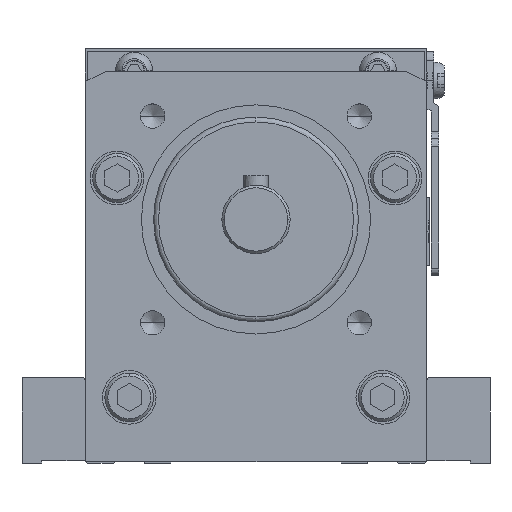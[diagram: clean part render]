
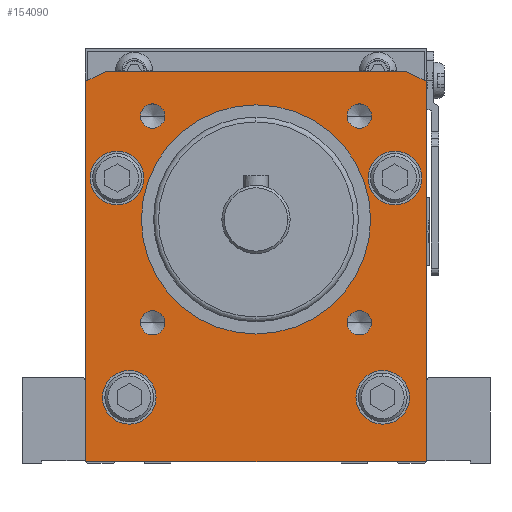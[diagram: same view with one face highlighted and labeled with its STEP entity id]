
A CAD part, front view. The second image highlights one B-rep face of the part: STEP entity #154090.
In plain terms, the highlighted planar face has unit normal (0, -1, 0) as drawn and (0, 0, 1) by its records, which use the part's own axes.
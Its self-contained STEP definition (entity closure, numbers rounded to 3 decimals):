
#150890=CARTESIAN_POINT('',(1538.79,48.217,417.));
#150900=VERTEX_POINT('',#150890);
#150930=CARTESIAN_POINT('',(1538.79,0.,417.));
#150940=DIRECTION('',(0.,-1.,0.));
#150950=VECTOR('',#150940,1.);
#150960=LINE('',#150930,#150950);
#150970=CARTESIAN_POINT('',(1538.79,126.217,417.));
#150980=VERTEX_POINT('',#150970);
#150990=EDGE_CURVE('',#150980,#150900,#150960,.T.);
#152280=CARTESIAN_POINT('',(1515.894,81.892,417.));
#152290=DIRECTION('',(0.,0.,1.));
#152300=DIRECTION('',(1.,0.,0.));
#152310=AXIS2_PLACEMENT_3D('',#152280,#152290,#152300);
#152320=PLANE('',#152310);
#152330=CARTESIAN_POINT('',(1482.69,119.117,417.));
#152340=DIRECTION('',(0.,0.,1.));
#152350=DIRECTION('',(-1.,0.,0.));
#152360=AXIS2_PLACEMENT_3D('',#152330,#152340,#152350);
#152370=CIRCLE('',#152360,2.5);
#152380=CARTESIAN_POINT('',(1480.19,119.117,417.));
#152390=VERTEX_POINT('',#152380);
#152400=CARTESIAN_POINT('',(1485.19,119.117,417.));
#152410=VERTEX_POINT('',#152400);
#152420=EDGE_CURVE('',#152390,#152410,#152370,.T.);
#152430=ORIENTED_EDGE('',*,*,#152420,.F.);
#152440=EDGE_CURVE('',#152410,#152390,#152370,.T.);
#152450=ORIENTED_EDGE('',*,*,#152440,.F.);
#152460=EDGE_LOOP('',(#152450,#152430));
#152470=FACE_BOUND('',#152460,.T.);
#152480=CARTESIAN_POINT('',(1482.69,76.717,417.));
#152490=DIRECTION('',(0.,0.,1.));
#152500=DIRECTION('',(-1.,0.,0.));
#152510=AXIS2_PLACEMENT_3D('',#152480,#152490,#152500);
#152520=CIRCLE('',#152510,2.5);
#152530=CARTESIAN_POINT('',(1480.19,76.717,417.));
#152540=VERTEX_POINT('',#152530);
#152550=CARTESIAN_POINT('',(1485.19,76.717,417.));
#152560=VERTEX_POINT('',#152550);
#152570=EDGE_CURVE('',#152540,#152560,#152520,.T.);
#152580=ORIENTED_EDGE('',*,*,#152570,.F.);
#152590=EDGE_CURVE('',#152560,#152540,#152520,.T.);
#152600=ORIENTED_EDGE('',*,*,#152590,.F.);
#152610=EDGE_LOOP('',(#152600,#152580));
#152620=FACE_BOUND('',#152610,.T.);
#152630=CARTESIAN_POINT('',(1525.09,76.717,417.));
#152640=DIRECTION('',(0.,0.,1.));
#152650=DIRECTION('',(-1.,0.,0.));
#152660=AXIS2_PLACEMENT_3D('',#152630,#152640,#152650);
#152670=CIRCLE('',#152660,2.5);
#152680=CARTESIAN_POINT('',(1522.59,76.717,417.));
#152690=VERTEX_POINT('',#152680);
#152700=CARTESIAN_POINT('',(1527.59,76.717,417.));
#152710=VERTEX_POINT('',#152700);
#152720=EDGE_CURVE('',#152690,#152710,#152670,.T.);
#152730=ORIENTED_EDGE('',*,*,#152720,.F.);
#152740=EDGE_CURVE('',#152710,#152690,#152670,.T.);
#152750=ORIENTED_EDGE('',*,*,#152740,.F.);
#152760=EDGE_LOOP('',(#152750,#152730));
#152770=FACE_BOUND('',#152760,.T.);
#152780=CARTESIAN_POINT('',(1532.39,106.417,417.));
#152790=DIRECTION('',(0.,0.,1.));
#152800=DIRECTION('',(1.,0.,0.));
#152810=AXIS2_PLACEMENT_3D('',#152780,#152790,#152800);
#152820=CIRCLE('',#152810,5.5);
#152830=CARTESIAN_POINT('',(1537.89,106.417,417.));
#152840=VERTEX_POINT('',#152830);
#152850=CARTESIAN_POINT('',(1526.89,106.417,417.));
#152860=VERTEX_POINT('',#152850);
#152870=EDGE_CURVE('',#152840,#152860,#152820,.T.);
#152880=ORIENTED_EDGE('',*,*,#152870,.F.);
#152890=EDGE_CURVE('',#152860,#152840,#152820,.T.);
#152900=ORIENTED_EDGE('',*,*,#152890,.F.);
#152910=EDGE_LOOP('',(#152900,#152880));
#152920=FACE_BOUND('',#152910,.T.);
#152930=CARTESIAN_POINT('',(1477.89,61.417,417.));
#152940=DIRECTION('',(0.,0.,1.));
#152950=DIRECTION('',(1.,0.,0.));
#152960=AXIS2_PLACEMENT_3D('',#152930,#152940,#152950);
#152970=CIRCLE('',#152960,5.5);
#152980=CARTESIAN_POINT('',(1483.39,61.417,417.));
#152990=VERTEX_POINT('',#152980);
#153000=CARTESIAN_POINT('',(1472.39,61.417,417.));
#153010=VERTEX_POINT('',#153000);
#153020=EDGE_CURVE('',#152990,#153010,#152970,.T.);
#153030=ORIENTED_EDGE('',*,*,#153020,.F.);
#153040=EDGE_CURVE('',#153010,#152990,#152970,.T.);
#153050=ORIENTED_EDGE('',*,*,#153040,.F.);
#153060=EDGE_LOOP('',(#153050,#153030));
#153070=FACE_BOUND('',#153060,.T.);
#153080=CARTESIAN_POINT('',(1475.39,106.417,417.));
#153090=DIRECTION('',(0.,0.,1.));
#153100=DIRECTION('',(1.,0.,0.));
#153110=AXIS2_PLACEMENT_3D('',#153080,#153090,#153100);
#153120=CIRCLE('',#153110,5.5);
#153130=CARTESIAN_POINT('',(1480.89,106.417,417.));
#153140=VERTEX_POINT('',#153130);
#153150=CARTESIAN_POINT('',(1469.89,106.417,417.));
#153160=VERTEX_POINT('',#153150);
#153170=EDGE_CURVE('',#153140,#153160,#153120,.T.);
#153180=ORIENTED_EDGE('',*,*,#153170,.F.);
#153190=EDGE_CURVE('',#153160,#153140,#153120,.T.);
#153200=ORIENTED_EDGE('',*,*,#153190,.F.);
#153210=EDGE_LOOP('',(#153200,#153180));
#153220=FACE_BOUND('',#153210,.T.);
#153230=CARTESIAN_POINT('',(1529.89,61.417,417.));
#153240=DIRECTION('',(0.,0.,1.));
#153250=DIRECTION('',(1.,0.,0.));
#153260=AXIS2_PLACEMENT_3D('',#153230,#153240,#153250);
#153270=CIRCLE('',#153260,5.5);
#153280=CARTESIAN_POINT('',(1535.39,61.417,417.));
#153290=VERTEX_POINT('',#153280);
#153300=CARTESIAN_POINT('',(1524.39,61.417,417.));
#153310=VERTEX_POINT('',#153300);
#153320=EDGE_CURVE('',#153290,#153310,#153270,.T.);
#153330=ORIENTED_EDGE('',*,*,#153320,.F.);
#153340=EDGE_CURVE('',#153310,#153290,#153270,.T.);
#153350=ORIENTED_EDGE('',*,*,#153340,.F.);
#153360=EDGE_LOOP('',(#153350,#153330));
#153370=FACE_BOUND('',#153360,.T.);
#153380=CARTESIAN_POINT('',(1503.89,97.917,417.));
#153390=DIRECTION('',(0.,0.,1.));
#153400=DIRECTION('',(1.,0.,0.));
#153410=AXIS2_PLACEMENT_3D('',#153380,#153390,#153400);
#153420=CIRCLE('',#153410,23.5);
#153430=CARTESIAN_POINT('',(1527.39,97.917,417.));
#153440=VERTEX_POINT('',#153430);
#153450=CARTESIAN_POINT('',(1480.39,97.917,417.));
#153460=VERTEX_POINT('',#153450);
#153470=EDGE_CURVE('',#153440,#153460,#153420,.T.);
#153480=ORIENTED_EDGE('',*,*,#153470,.F.);
#153490=EDGE_CURVE('',#153460,#153440,#153420,.T.);
#153500=ORIENTED_EDGE('',*,*,#153490,.F.);
#153510=EDGE_LOOP('',(#153500,#153480));
#153520=FACE_BOUND('',#153510,.T.);
#153530=CARTESIAN_POINT('',(1525.09,119.117,417.));
#153540=DIRECTION('',(0.,0.,1.));
#153550=DIRECTION('',(-1.,0.,0.));
#153560=AXIS2_PLACEMENT_3D('',#153530,#153540,#153550);
#153570=CIRCLE('',#153560,2.5);
#153580=CARTESIAN_POINT('',(1522.59,119.117,417.));
#153590=VERTEX_POINT('',#153580);
#153600=CARTESIAN_POINT('',(1527.59,119.117,417.));
#153610=VERTEX_POINT('',#153600);
#153620=EDGE_CURVE('',#153590,#153610,#153570,.T.);
#153630=ORIENTED_EDGE('',*,*,#153620,.F.);
#153640=EDGE_CURVE('',#153610,#153590,#153570,.T.);
#153650=ORIENTED_EDGE('',*,*,#153640,.F.);
#153660=EDGE_LOOP('',(#153650,#153630));
#153670=FACE_BOUND('',#153660,.T.);
#153680=CARTESIAN_POINT('',(0.,48.217,417.));
#153690=DIRECTION('',(1.,0.,0.));
#153700=VECTOR('',#153690,1.);
#153710=LINE('',#153680,#153700);
#153720=CARTESIAN_POINT('',(1468.99,48.217,417.));
#153730=VERTEX_POINT('',#153720);
#153740=EDGE_CURVE('',#153730,#150900,#153710,.T.);
#153750=ORIENTED_EDGE('',*,*,#153740,.T.);
#153760=CARTESIAN_POINT('',(1468.99,0.,417.));
#153770=DIRECTION('',(0.,1.,0.));
#153780=VECTOR('',#153770,1.);
#153790=LINE('',#153760,#153780);
#153800=CARTESIAN_POINT('',(1468.99,126.217,417.));
#153810=VERTEX_POINT('',#153800);
#153820=EDGE_CURVE('',#153730,#153810,#153790,.T.);
#153830=ORIENTED_EDGE('',*,*,#153820,.F.);
#153840=CARTESIAN_POINT('',(0.,-608.278,417.));
#153850=DIRECTION('',(-0.894,-0.447,
0.));
#153860=VECTOR('',#153850,1.);
#153870=LINE('',#153840,#153860);
#153880=CARTESIAN_POINT('',(1472.99,128.217,417.));
#153890=VERTEX_POINT('',#153880);
#153900=EDGE_CURVE('',#153890,#153810,#153870,.T.);
#153910=ORIENTED_EDGE('',*,*,#153900,.T.);
#153920=CARTESIAN_POINT('',(0.,128.217,417.));
#153930=DIRECTION('',(1.,0.,0.));
#153940=VECTOR('',#153930,1.);
#153950=LINE('',#153920,#153940);
#153960=CARTESIAN_POINT('',(1534.79,128.217,417.));
#153970=VERTEX_POINT('',#153960);
#153980=EDGE_CURVE('',#153890,#153970,#153950,.T.);
#153990=ORIENTED_EDGE('',*,*,#153980,.F.);
#154000=CARTESIAN_POINT('',(0.,895.612,417.));
#154010=DIRECTION('',(-0.894,0.447,0.));
#154020=VECTOR('',#154010,1.);
#154030=LINE('',#154000,#154020);
#154040=EDGE_CURVE('',#150980,#153970,#154030,.T.);
#154050=ORIENTED_EDGE('',*,*,#154040,.T.);
#154060=ORIENTED_EDGE('',*,*,#150990,.F.);
#154070=EDGE_LOOP('',(#154060,#154050,#153990,#153910,#153830,#153750));
#154080=FACE_OUTER_BOUND('',#154070,.T.);
#154090=ADVANCED_FACE('',(#152470,#152620,#152770,#152920,#153070,
#153220,#153370,#153520,#153670,#154080),#152320,.T.);
